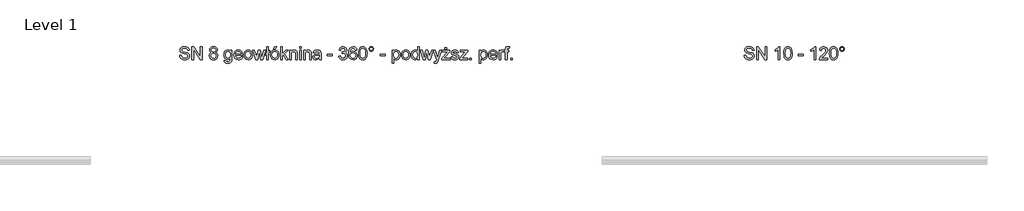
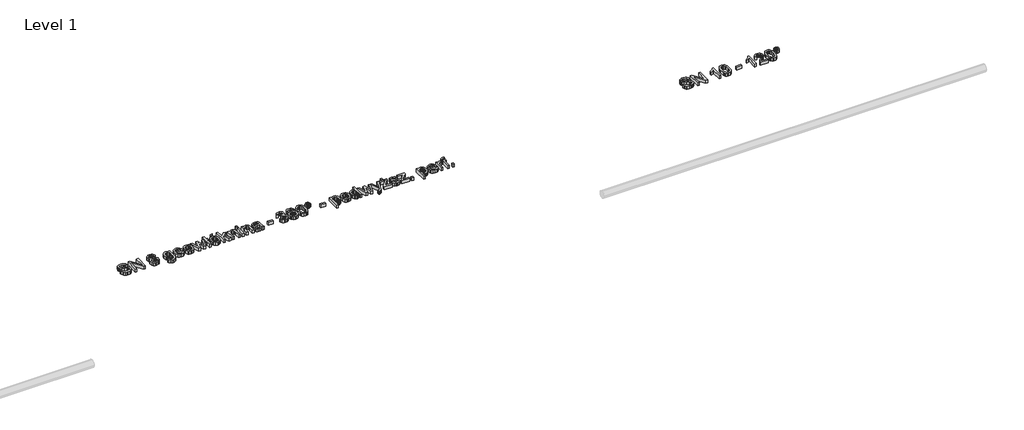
# One storey, part 7 of 9: 2 proxies.
"""IFC4 building model written with IfcOpenShell, lengths in millimetres."""

from ifc_helpers import new_model, si_unit, origin, origin_with_axes, place, context, project, spatial, polyline, outline, extrude, element, save

model = new_model("IFC4")

# Units and contexts
model_context = context("Model", 3, world=origin())
ifc_project = project(units=[si_unit("LENGTHUNIT", "METRE", prefix="MILLI")], contexts=[model_context])

# Site, building, storey
site = spatial("IfcSite", under=ifc_project)
building = spatial("IfcBuilding", under=site)
storey = spatial("IfcBuildingStorey", under=building, Name="Level 1", Elevation=0.0)

# Proxies
placement = place(None, origin())
element("IfcBuildingElementProxy", 1, Name="200mm Arial", ObjectType="200mm Arial", at=placement, inside=storey, context=model_context, shape_type="SweptSolid", body=[
    extrude(outline(polyline([(25360.1777004, 2231.0128426), (25385.291778, 2231.0128426), (25393.3851819, 2205.8742396), (25401.515374, 2196.983758), (25413.1527077, 2189.9817374), (25427.3774782, 2185.4383947), (25443.2699804, 2183.9239472), (25469.5122294, 2188.5102094), (25486.4593266, 2201.1162991), (25492.0266075, 2217.9652945), (25487.8572782, 2233.6370675), (25481.5051824, 2239.8358791), (25470.7875536, 2245.0414093), (25434.2200833, 2254.6308667), (25394.8567098, 2267.0162272), (25382.3548534, 2275.4652503), (25373.4950287, 2285.7046325), (25368.215922, 2297.5136446), (25366.4562198, 2310.6715573), (25368.632855, 2325.3807057), (25375.1627604, 2339.0965728), (25385.8742578, 2350.7216438), (25400.595669, 2359.1584042), (25418.2662675, 2364.2903581), (25437.8253269, 2366.0010093), (25459.0153298, 2364.2106503), (25477.5565824, 2358.8395732), (25492.786897, 2349.9981425), (25504.044086, 2337.796723), (25511.168734, 2322.9956041), (25514.0014253, 2306.3550752), (25488.8873478, 2306.3550752), (25484.2765601, 2321.3401351), (25474.6625773, 2332.1558658), (25459.6407292, 2338.7041653), (25438.8063455, 2340.8869318), (25417.4814525, 2338.7286908), (25402.8520119, 2332.2539676), (25394.390726, 2322.725824), (25391.5702974, 2311.4073212), (25393.5691229, 2301.7565502), (25399.5655994, 2293.9942401), (25413.7413189, 2287.0535332), (25440.5721791, 2279.9656734), (25485.0123241, 2267.3595837), (25499.3290651, 2258.2483729), (25509.3170613, 2247.0034466), (25515.1847791, 2233.7474321), (25517.140685, 2218.6029566), (25514.8904735, 2203.121256), (25508.1398389, 2188.5592603), (25497.1646927, 2176.026747), (25482.2409464, 2166.6334934), (25464.2944364, 2160.7657756), (25444.2509991, 2158.8098696), (25419.645825, 2160.9190598), (25399.3939211, 2167.2466301), (25383.2622956, 2177.8171061), (25371.0179566, 2192.6550132), (25363.1575446, 2210.7302819), (25360.1777004, 2231.0128426)])), origin_with_axes(), (0.0, 0.0, 1.0), 50.0),
    extrude(outline(polyline([(25554.8118013, 2161.9491293), (25554.8118013, 2362.8617496), (25581.6917125, 2362.8617496), (25686.6607084, 2203.6914731), (25686.6607084, 2362.8617496), (25711.774786, 2362.8617496), (25711.774786, 2161.9491293), (25684.8948748, 2161.9491293), (25579.9258789, 2321.1684569), (25579.9258789, 2161.9491293), (25554.8118013, 2161.9491293)])), origin_with_axes(), (0.0, 0.0, 1.0), 50.0),
    extrude(outline(polyline([(25861.3801307, 2272.6080335), (25847.9340437, 2279.2299094), (25838.4978706, 2288.2062301), (25832.9244583, 2299.3530545), (25831.0666543, 2312.4864418), (25835.1133562, 2332.1190776), (25847.253462, 2348.3426736), (25866.1258084, 2359.2319806), (25890.3692319, 2362.8617496), (25914.7598082, 2359.1461415), (25933.8774092, 2347.999317), (25946.2382442, 2331.5182037), (25950.3585226, 2311.7997287), (25948.525244, 2299.0894058), (25943.0254081, 2288.1326537), (25933.7977014, 2279.2115153), (25920.7808101, 2272.6080335), (25936.2379853, 2264.6433883), (25947.489043, 2252.914084), (25954.3500422, 2237.9842064), (25956.6370419, 2220.4178411), (25952.0998307, 2196.4074096), (25938.4881969, 2176.5663073), (25917.4698722, 2163.2489791), (25890.7125884, 2158.8098696), (25863.9553046, 2163.2673732), (25842.93698, 2176.6398837), (25829.3253461, 2196.6710583), (25824.7881349, 2221.1045542), (25827.1671051, 2239.3515011), (25834.3040158, 2254.3610865), (25845.830985, 2265.6182756), (25861.3801307, 2272.6080335)]), holes=[polyline([(25856.1807318, 2311.7506778), (25858.4064179, 2300.7877943), (25865.0834761, 2292.0322028), (25876.0157027, 2286.2932437), (25891.006894, 2284.3802573), (25905.6485974, 2286.280981), (25916.4152771, 2291.9831519), (25923.0371531, 2300.4444378), (25925.244445, 2310.6225063), (25922.9635767, 2321.186851), (25916.1209715, 2329.9240483), (25905.207139, 2335.7917662), (25890.7125884, 2337.7476721), (25876.1260673, 2335.8346857), (25865.2306289, 2330.0957266), (25858.4432061, 2321.6834916), (25856.1807318, 2311.7506778)]), polyline([(25849.9022124, 2221.987471), (25854.0960672, 2203.0783364), (25859.9024713, 2194.9665384), (25868.9339743, 2188.9271423), (25890.9087921, 2183.9239472), (25908.0030422, 2186.5543035), (25920.8298611, 2194.4453722), (25928.8496886, 2206.3954057), (25931.5229644, 2221.202656), (25928.7638494, 2236.2612924), (25920.4865046, 2248.4749746), (25907.3653801, 2256.5683785), (25890.0749263, 2259.2661798), (25873.2197995, 2256.6051667), (25860.5217393, 2248.6221274), (25852.5570941, 2236.6414371), (25849.9022124, 2221.987471)])]), origin_with_axes(), (0.0, 0.0, 1.0), 50.0),
    extrude(outline(polyline([(26057.0933521, 2149.3920906), (26082.2074296, 2146.2528309), (26084.9788073, 2138.4046817), (26090.3498845, 2133.0090791), (26100.9080977, 2128.8152243), (26114.728198, 2127.4172727), (26129.4680033, 2128.9991653), (26140.4308867, 2133.744843), (26148.0337813, 2141.3477376), (26152.6936199, 2151.5012807), (26154.4104026, 2180.7846875), (26136.7275413, 2166.6580189), (26115.1696564, 2161.9491293), (26089.2768953, 2167.4305711), (26069.9692219, 2183.8748963), (26057.9578748, 2207.9834297), (26053.9540924, 2236.4574961), (26055.7505828, 2256.7339254), (26061.140054, 2275.3794112), (26069.9324337, 2291.1799429), (26081.9376495, 2302.9215099), (26096.7448998, 2310.2055734), (26113.9433831, 2312.6335946), (26136.3473966, 2307.1398901), (26154.4104026, 2290.6587767), (26154.4104026, 2309.4943349), (26179.5244801, 2309.4943349), (26179.5244801, 2182.1090627), (26177.8076974, 2152.6968972), (26172.6573495, 2133.3279101), (26163.7852621, 2120.4826971), (26150.9032609, 2110.6418537), (26134.2933888, 2104.3878598), (26114.2376887, 2102.3031952), (26090.8710506, 2105.2401198), (26072.4708195, 2114.0508936), (26060.6679388, 2128.760042), (26057.0933521, 2149.3920906)]), holes=[polyline([(26079.0681699, 2238.1742787), (26081.7475771, 2215.1387345), (26089.7857987, 2199.3014146), (26101.8707223, 2190.1227588), (26116.6902353, 2187.0632069), (26131.3993838, 2190.1043647), (26143.545621, 2199.2278382), (26151.6942072, 2214.862823), (26154.4104026, 2237.4385148), (26151.6144994, 2259.2109975), (26143.2267899, 2274.8889019), (26130.9027431, 2284.3618632), (26116.2978279, 2287.519517), (26101.9565614, 2284.4109142), (26089.9329515, 2275.0851056), (26081.7843653, 2259.6401932), (26079.0681699, 2238.1742787)])]), origin_with_axes(), (0.0, 0.0, 1.0), 50.0),
    extrude(outline(polyline([(26320.4968606, 2205.898765), (26345.1204289, 2202.7595053), (26336.2483414, 2184.20599), (26322.091016, 2170.3368388), (26302.9672836, 2161.6916119), (26279.1959753, 2158.8098696), (26249.7286275, 2163.782408), (26227.0548339, 2178.7000229), (26212.5970715, 2202.5939584), (26207.7778173, 2234.4954588), (26212.6461224, 2267.4699483), (26227.2510376, 2292.1303047), (26249.6182629, 2307.5077721), (26277.7734983, 2312.6335946), (26305.0519482, 2307.5200348), (26326.8489564, 2292.1793556), (26341.1411719, 2267.5680502), (26345.9052438, 2234.6426116), (26345.758091, 2227.8735829), (26232.8918949, 2227.8735829), (26237.2390338, 2209.0748129), (26247.3373945, 2195.2547126), (26261.9116529, 2186.7566385), (26279.6864846, 2183.9239472), (26304.3100529, 2189.172397), (26313.4580518, 2195.9782139), (26320.4968606, 2205.898765)]), holes=[polyline([(26232.8918949, 2252.9876604), (26320.7911662, 2252.9876604), (26317.3943891, 2266.2559377), (26310.735725, 2275.7472932), (26296.0940216, 2284.5764611), (26277.6753964, 2287.519517), (26260.7466933, 2285.1712036), (26246.7487833, 2278.1262634), (26237.0183046, 2267.1449859), (26232.8918949, 2252.9876604)])]), origin_with_axes(), (0.0, 0.0, 1.0), 50.0),
    extrude(outline(polyline([(26364.7408019, 2235.7217321), (26370.1731927, 2271.295921), (26376.9636812, 2285.119087), (26386.4703651, 2296.299634), (26406.605773, 2308.5501044), (26430.7143064, 2312.6335946), (26457.0975768, 2307.6610563), (26478.1710838, 2292.7434414), (26491.9850527, 2269.0579722), (26496.589709, 2237.7818713), (26494.5540953, 2212.4102763), (26488.4472542, 2193.0964716), (26478.4469953, 2178.6325778), (26464.7311282, 2167.8107158), (26448.4400872, 2161.0600812), (26430.7143064, 2158.8098696), (26404.0122049, 2163.7640139), (26382.9632234, 2178.6264465), (26369.2964073, 2202.8085563), (26364.7408019, 2235.7217321)]), holes=[polyline([(26389.8548795, 2235.770783), (26392.7611472, 2213.0418071), (26401.4799505, 2196.848868), (26414.601075, 2187.1551774), (26430.7143064, 2183.9239472), (26446.7539614, 2187.1735715), (26459.8505604, 2196.9224443), (26468.5693637, 2213.3299813), (26471.4756315, 2236.555598), (26468.5509696, 2258.6223863), (26459.776984, 2274.5945963), (26446.6619909, 2284.2882868), (26430.7143064, 2287.519517), (26414.601075, 2284.3005496), (26401.4799505, 2274.6436472), (26392.7611472, 2258.4874962), (26389.8548795, 2235.770783)])]), origin_with_axes(), (0.0, 0.0, 1.0), 50.0),
    extrude(outline(polyline([(26549.3194616, 2161.9491293), (26504.4378582, 2309.4943349), (26530.5329544, 2309.4943349), (26555.9903885, 2223.409948), (26563.5932831, 2192.6550132), (26569.8227515, 2222.2817766), (26590.0807867, 2309.4943349), (26620.0018556, 2309.4943349), (26640.161789, 2222.5270312), (26645.7045444, 2195.696171), (26653.6507955, 2223.9985592), (26679.1572805, 2309.4943349), (26705.3504785, 2309.4943349), (26660.1255186, 2161.9491293), (26629.7629913, 2161.9491293), (26610.4859747, 2248.4749746), (26604.8941684, 2275.4529876), (26580.0253455, 2161.9491293), (26549.3194616, 2161.9491293)])), origin_with_axes(), (0.0, 0.0, 1.0), 50.0),
    extrude(outline(polyline([(26722.6164068, 2241.3625894), (26703.7808487, 2226.303953), (26703.7808487, 2254.5572903), (26722.6164068, 2269.6159266), (26722.6164068, 2362.8617496), (26747.7304844, 2362.8617496), (26747.7304844, 2289.726809), (26766.5660425, 2304.7854453), (26766.5660425, 2276.5321081), (26747.7304844, 2261.4734718), (26747.7304844, 2161.9491293), (26722.6164068, 2161.9491293), (26722.6164068, 2241.3625894)])), origin_with_axes(), (0.0, 0.0, 1.0), 50.0),
    extrude(outline(polyline([(26826.2119767, 2325.1906333), (26845.0475348, 2362.8617496), (26876.4401318, 2362.8617496), (26845.0475348, 2325.1906333), (26826.2119767, 2325.1906333)])), origin_with_axes(), (0.0, 0.0, 1.0), 50.0),
    extrude(outline(polyline([(26779.1230813, 2235.7217321), (26784.5554721, 2271.295921), (26791.3459606, 2285.119087), (26800.8526445, 2296.299634), (26820.9880523, 2308.5501044), (26845.0965858, 2312.6335946), (26871.4798562, 2307.6610563), (26892.5533631, 2292.7434414), (26906.3673321, 2269.0579722), (26910.9719884, 2237.7818713), (26908.9363747, 2212.4102763), (26902.8295335, 2193.0964716), (26892.8292746, 2178.6325778), (26879.1134076, 2167.8107158), (26862.8223666, 2161.0600812), (26845.0965858, 2158.8098696), (26818.3944843, 2163.7640139), (26797.3455028, 2178.6264465), (26783.6786867, 2202.8085563), (26779.1230813, 2235.7217321)]), holes=[polyline([(26804.2371588, 2235.770783), (26807.1434266, 2213.0418071), (26815.8622299, 2196.848868), (26828.9833544, 2187.1551774), (26845.0965858, 2183.9239472), (26861.1362408, 2187.1735715), (26874.2328398, 2196.9224443), (26882.9516431, 2213.3299813), (26885.8579108, 2236.555598), (26882.933249, 2258.6223863), (26874.1592634, 2274.5945963), (26861.0442703, 2284.2882868), (26845.0965858, 2287.519517), (26828.9833544, 2284.3005496), (26815.8622299, 2274.6436472), (26807.1434266, 2258.4874962), (26804.2371588, 2235.770783)])]), origin_with_axes(), (0.0, 0.0, 1.0), 50.0),
    extrude(outline(polyline([(26939.2253256, 2161.9491293), (26939.2253256, 2362.8617496), (26964.3394031, 2362.8617496), (26964.3394031, 2254.9006468), (27020.6498739, 2309.4943349), (27055.3779342, 2309.4943349), (26998.3807504, 2254.2139337), (27058.5171939, 2161.9491293), (27029.1847362, 2161.9491293), (26980.3790581, 2236.7518017), (26964.3394031, 2221.202656), (26964.3394031, 2161.9491293), (26939.2253256, 2161.9491293)])), origin_with_axes(), (0.0, 0.0, 1.0), 50.0),
    extrude(outline(polyline([(27080.4920117, 2161.9491293), (27080.4920117, 2309.4943349), (27105.6060893, 2309.4943349), (27105.6060893, 2288.8929431), (27114.3310239, 2299.2794781), (27124.8095294, 2306.6984317), (27137.0416058, 2311.1498039), (27151.027253, 2312.6335946), (27174.7433789, 2307.8511286), (27190.9301867, 2295.2940899), (27198.4595049, 2276.8264137), (27199.78388, 2252.546202), (27199.78388, 2161.9491293), (27174.6698025, 2161.9491293), (27174.6698025, 2249.1616877), (27171.7757975, 2271.3817602), (27161.548678, 2283.1294586), (27144.3072752, 2287.519517), (27129.5981267, 2285.0547077), (27117.0594821, 2277.6602796), (27108.4694375, 2263.3741954), (27105.6060893, 2240.2344179), (27105.6060893, 2161.9491293), (27080.4920117, 2161.9491293)])), origin_with_axes(), (0.0, 0.0, 1.0), 50.0),
    extrude(outline(polyline([(27234.3157367, 2337.7476721), (27234.3157367, 2362.8617496), (27259.4298142, 2362.8617496), (27259.4298142, 2337.7476721), (27234.3157367, 2337.7476721)])), origin_with_axes(), (0.0, 0.0, 1.0), 50.0),
    extrude(outline(polyline([(27234.3157367, 2161.9491293), (27234.3157367, 2309.4943349), (27259.4298142, 2309.4943349), (27259.4298142, 2161.9491293), (27234.3157367, 2161.9491293)])), origin_with_axes(), (0.0, 0.0, 1.0), 50.0),
    extrude(outline(polyline([(27297.1009305, 2161.9491293), (27297.1009305, 2309.4943349), (27322.215008, 2309.4943349), (27322.215008, 2288.8929431), (27330.9399427, 2299.2794781), (27341.4184482, 2306.6984317), (27353.6505245, 2311.1498039), (27367.6361717, 2312.6335946), (27391.3522977, 2307.8511286), (27407.5391055, 2295.2940899), (27415.0684236, 2276.8264137), (27416.3927988, 2252.546202), (27416.3927988, 2161.9491293), (27391.2787213, 2161.9491293), (27391.2787213, 2249.1616877), (27388.3847162, 2271.3817602), (27378.1575968, 2283.1294586), (27360.9161939, 2287.519517), (27346.2070455, 2285.0547077), (27333.6684008, 2277.6602796), (27325.0783562, 2263.3741954), (27322.215008, 2240.2344179), (27322.215008, 2161.9491293), (27297.1009305, 2161.9491293)])), origin_with_axes(), (0.0, 0.0, 1.0), 50.0),
    extrude(outline(polyline([(27545.1024462, 2180.7846875), (27520.7486581, 2163.7640139), (27493.8442215, 2158.8098696), (27472.8565537, 2161.7897138), (27457.3748531, 2170.7292463), (27447.8283153, 2184.3040919), (27444.646136, 2201.1898755), (27449.4531274, 2221.0555032), (27462.0837426, 2235.4764774), (27479.668502, 2243.7170341), (27501.3980652, 2247.493956), (27544.9552934, 2256.1269201), (27545.1024462, 2261.7187264), (27543.3734008, 2272.9268646), (27538.1862647, 2280.259979), (27526.5857191, 2285.7046325), (27510.4234368, 2287.519517), (27495.4629023, 2286.3116378), (27485.0150536, 2282.6880002), (27477.8904057, 2275.9864165), (27472.8994733, 2265.5446992), (27447.7853957, 2268.6839589), (27458.6501773, 2293.2094252), (27467.9085409, 2301.4622446), (27480.5268933, 2307.5813485), (27513.6607983, 2312.6335946), (27544.0969021, 2308.1699597), (27561.289254, 2296.9618216), (27568.9902504, 2279.9166225), (27570.2165237, 2257.9418046), (27570.2165237, 2226.6963605), (27571.491848, 2183.0655559), (27576.4950431, 2161.9491293), (27551.3809656, 2161.9491293), (27545.1024462, 2180.7846875)]), holes=[polyline([(27545.1024462, 2231.0128426), (27504.5863758, 2223.3118461), (27482.9794399, 2219.2406187), (27473.1937789, 2212.6187428), (27469.7602136, 2202.9557091), (27471.6302804, 2195.4877046), (27477.2404808, 2189.3686007), (27486.4681875, 2185.2851106), (27499.1907732, 2183.9239472), (27512.6797797, 2185.426132), (27524.5991563, 2189.9326864), (27540.9821678, 2204.476288), (27544.9552934, 2223.9004573), (27545.1024462, 2231.0128426)])]), origin_with_axes(), (0.0, 0.0, 1.0), 50.0),
    extrude(outline(polyline([(27670.6728339, 2221.5950635), (27670.6728339, 2246.709141), (27749.1543262, 2246.709141), (27749.1543262, 2221.5950635), (27670.6728339, 2221.5950635)])), origin_with_axes(), (0.0, 0.0, 1.0), 50.0),
    extrude(outline(polyline([(27849.6106363, 2215.3165441), (27874.7247139, 2218.4558038), (27880.347177, 2202.6736662), (27888.5816023, 2192.0173511), (27899.83266, 2185.9472982), (27914.5050203, 2183.9239472), (27931.7218977, 2186.7075876), (27945.0147004, 2195.0585089), (27953.5127745, 2207.5174458), (27956.3454659, 2222.6251331), (27953.5373, 2236.9663995), (27945.1128023, 2248.5976019), (27932.3595598, 2256.3047297), (27916.5651594, 2258.8737723), (27898.9558746, 2256.1269201), (27901.7517778, 2281.2409976), (27905.7739543, 2280.946692), (27920.8203279, 2282.7493138), (27934.2725462, 2288.1571792), (27943.7639016, 2297.3051781), (27946.9276868, 2310.3282007), (27944.6345557, 2321.1745882), (27937.7551624, 2329.9730993), (27927.2582628, 2335.8040289), (27914.1126128, 2337.7476721), (27900.9424374, 2335.7856348), (27890.1757577, 2329.8995229), (27882.3153457, 2320.0893363), (27877.8639736, 2306.3550752), (27852.749896, 2309.4943349), (27860.1443241, 2332.0455012), (27873.3022368, 2348.8822338), (27891.3039291, 2359.3668707), (27913.229696, 2362.8617496), (27929.017965, 2361.1388356), (27943.518647, 2355.9700936), (27955.7445919, 2347.815376), (27964.7086499, 2337.1345354), (27970.2084857, 2324.8288827), (27972.0417643, 2311.7997287), (27970.3004562, 2299.6596229), (27965.0765319, 2288.6476885), (27956.4435677, 2279.2666976), (27944.4751402, 2272.0194223), (27960.1959641, 2265.6673265), (27971.8455606, 2254.8515959), (27979.0560477, 2240.1608415), (27981.4595434, 2222.1836747), (27976.652552, 2197.7072593), (27962.2315778, 2177.2530203), (27940.4652264, 2163.4206573), (27913.6221035, 2158.8098696), (27889.3418918, 2162.746207), (27869.5743659, 2174.555219), (27855.827842, 2192.618225), (27849.6106363, 2215.3165441)])), origin_with_axes(), (0.0, 0.0, 1.0), 50.0),
    extrude(outline(polyline([(28132.1440086, 2309.4943349), (28107.0299311, 2306.3550752), (28097.5140501, 2327.2998234), (28086.121971, 2335.1357099), (28072.3509217, 2337.7476721), (28049.6893908, 2331.6653564), (28040.2532176, 2322.057505), (28032.5460898, 2308.8321473), (28027.3405596, 2290.1253478), (28025.4091791, 2264.0731712), (28035.4830144, 2275.8270009), (28047.5556752, 2284.1104772), (28060.9527112, 2289.0217018), (28074.999672, 2290.6587767), (28098.2007632, 2286.1828791), (28117.6739835, 2272.7551863), (28130.8809471, 2252.2396337), (28135.2832683, 2226.5001568), (28133.2108664, 2208.5168586), (28126.9936607, 2191.8456728), (28117.146686, 2177.7067415), (28104.184977, 2167.3202065), (28088.697145, 2160.9374539), (28071.2718012, 2158.8098696), (28042.7793406, 2164.4507269), (28020.0871529, 2181.3732987), (28011.4281304, 2194.4821604), (28005.2431144, 2211.2453167), (28000.2951016, 2255.7345126), (28005.788806, 2305.7542013), (28012.6559366, 2324.8319484), (28022.2699194, 2339.9549641), (28032.6901769, 2349.9766828), (28044.7720348, 2357.1350532), (28073.9205515, 2362.8617496), (28095.956683, 2359.3178198), (28113.6027561, 2348.6860301), (28125.9635911, 2331.8002465), (28132.1440086, 2309.4943349)]), holes=[polyline([(28025.4091791, 2226.8925642), (28031.2217146, 2205.1384756), (28046.6727584, 2189.3440752), (28069.3097638, 2183.9239472), (28085.8828477, 2186.7321131), (28098.9120017, 2195.1566108), (28107.3548935, 2208.4003626), (28110.1691908, 2225.6662909), (28107.3916817, 2242.2393748), (28099.0591545, 2254.8761213), (28085.8092713, 2262.8775547), (28068.2796943, 2265.5446992), (28051.7311358, 2262.8775547), (28037.8926415, 2254.8761213), (28028.5300447, 2242.5459431), (28025.4091791, 2226.8925642)])]), origin_with_axes(), (0.0, 0.0, 1.0), 50.0),
    extrude(outline(polyline([(28157.2580862, 2260.7867587), (28159.1036275, 2292.9457765), (28164.6402515, 2318.5932829), (28173.8127759, 2338.1216855), (28186.5660184, 2351.9233917), (28202.9919495, 2360.1271601), (28223.1825397, 2362.8617496), (28238.658109, 2361.2430689), (28252.5149974, 2356.3870265), (28264.1032803, 2348.483695), (28272.7730326, 2337.7231466), (28284.5452565, 2307.9982814), (28289.1069932, 2260.7867587), (28287.279846, 2228.811682), (28281.7984043, 2203.2254892), (28272.6810621, 2183.6786925), (28259.9462137, 2169.821804), (28243.4834945, 2161.5628532), (28223.1825397, 2158.8098696), (28197.0874435, 2163.5923356), (28177.2708667, 2177.9397334), (28168.5152752, 2193.0688805), (28162.2612813, 2211.919767), (28157.2580862, 2260.7867587)]), holes=[polyline([(28182.3721637, 2260.8358096), (28185.3152197, 2221.3314147), (28194.1443875, 2198.4675487), (28207.2900375, 2187.5598476), (28223.1825397, 2183.9239472), (28239.0750419, 2187.5721103), (28252.2206918, 2198.5165997), (28261.0498597, 2221.3927284), (28263.9929157, 2260.8358096), (28261.1479616, 2299.4511564), (28252.6130993, 2322.492832), (28239.4919748, 2333.9339621), (28222.8882341, 2337.7476721), (28207.1674102, 2334.3876832), (28194.536795, 2324.3077165), (28185.4133215, 2299.8313011), (28182.3721637, 2260.8358096)])]), origin_with_axes(), (0.0, 0.0, 1.0), 50.0),
    extrude(outline(polyline([(28317.3603305, 2328.378944), (28320.1255768, 2342.8612318), (28328.4213158, 2355.0136004), (28340.5920785, 2363.2541571), (28354.9823958, 2366.0010093), (28369.5382601, 2363.2541571), (28381.7151542, 2355.0136004), (28389.9557108, 2342.8612318), (28392.7025631, 2328.378944), (28389.9373167, 2313.9150502), (28381.6415778, 2301.719762), (28369.4462896, 2293.4240231), (28354.9823958, 2290.6587767), (28340.5920785, 2293.405629), (28328.4213158, 2301.6461856), (28320.1255768, 2313.8230797), (28317.3603305, 2328.378944)]), holes=[polyline([(28333.0566289, 2328.329893), (28334.6691783, 2319.8808699), (28339.5068266, 2312.7807474), (28346.6253432, 2307.9614932), (28355.0804977, 2306.3550752), (28363.4620758, 2307.9614932), (28370.556067, 2312.7807474), (28375.3937152, 2319.8808699), (28377.0062646, 2328.329893), (28375.3937152, 2336.7789162), (28370.556067, 2343.8790387), (28363.4620758, 2348.6982928), (28355.0804977, 2350.3047109), (28346.6253432, 2348.6982928), (28339.5068266, 2343.8790387), (28334.6691783, 2336.7789162), (28333.0566289, 2328.329893)])]), origin_with_axes(), (0.0, 0.0, 1.0), 50.0),
    extrude(outline(polyline([(28496.2981329, 2221.5950635), (28496.2981329, 2246.709141), (28574.7796252, 2246.709141), (28574.7796252, 2221.5950635), (28496.2981329, 2221.5950635)])), origin_with_axes(), (0.0, 0.0, 1.0), 50.0),
    extrude(outline(polyline([(28681.5144548, 2105.4424549), (28681.5144548, 2309.4943349), (28706.6285323, 2309.4943349), (28706.6285323, 2284.8707667), (28723.9925625, 2305.6928876), (28734.6856658, 2310.8984178), (28747.4389083, 2312.6335946), (28764.4227937, 2310.2055734), (28779.2729636, 2302.9215099), (28791.3640185, 2291.2228624), (28800.0705591, 2275.5510895), (28805.3312716, 2257.0466251), (28807.0848424, 2236.8499036), (28805.104411, 2215.3717264), (28799.1631168, 2196.1621549), (28789.4510321, 2180.1960763), (28776.1582294, 2168.4483779), (28760.6765287, 2161.2194967), (28744.3977505, 2158.8098696), (28732.8523872, 2160.4224191), (28722.5455599, 2165.2600673), (28706.6285323, 2181.5695024), (28706.6285323, 2105.4424549), (28681.5144548, 2105.4424549)]), holes=[polyline([(28706.6285323, 2234.5445097), (28709.3447277, 2212.0301316), (28717.4933139, 2196.2847822), (28729.5169238, 2187.0141559), (28743.8581902, 2183.9239472), (28758.4324486, 2187.1245205), (28770.7626268, 2196.7262406), (28779.1687304, 2213.0479385), (28781.9707649, 2236.4084452), (28779.2361754, 2258.8001959), (28771.0324069, 2274.7662745), (28759.0271911, 2284.3312064), (28744.8882598, 2287.519517), (28730.6941461, 2284.1288713), (28718.2290779, 2273.9569341), (28709.5286687, 2257.3225366), (28706.6285323, 2234.5445097)])]), origin_with_axes(), (0.0, 0.0, 1.0), 50.0),
    extrude(outline(polyline([(28829.0596603, 2235.7217321), (28834.4920511, 2271.295921), (28841.2825396, 2285.119087), (28850.7892235, 2296.299634), (28870.9246313, 2308.5501044), (28895.0331648, 2312.6335946), (28921.4164352, 2307.6610563), (28942.4899421, 2292.7434414), (28956.3039111, 2269.0579722), (28960.9085674, 2237.7818713), (28958.8729537, 2212.4102763), (28952.7661125, 2193.0964716), (28942.7658536, 2178.6325778), (28929.0499866, 2167.8107158), (28912.7589456, 2161.0600812), (28895.0331648, 2158.8098696), (28868.3310633, 2163.7640139), (28847.2820818, 2178.6264465), (28833.6152657, 2202.8085563), (28829.0596603, 2235.7217321)]), holes=[polyline([(28854.1737378, 2235.770783), (28857.0800056, 2213.0418071), (28865.7988089, 2196.848868), (28878.9199334, 2187.1551774), (28895.0331648, 2183.9239472), (28911.0728197, 2187.1735715), (28924.1694188, 2196.9224443), (28932.8882221, 2213.3299813), (28935.7944898, 2236.555598), (28932.869828, 2258.6223863), (28924.0958424, 2274.5945963), (28910.9808492, 2284.2882868), (28895.0331648, 2287.519517), (28878.9199334, 2284.3005496), (28865.7988089, 2274.6436472), (28857.0800056, 2258.4874962), (28854.1737378, 2235.770783)])]), origin_with_axes(), (0.0, 0.0, 1.0), 50.0),
    extrude(outline(polyline([(29080.2004357, 2161.9491293), (29080.2004357, 2185.6407298), (29072.6864459, 2173.9022285), (29063.5844322, 2165.5175847), (29052.8943946, 2160.4867984), (29040.616333, 2158.8098696), (29024.3804743, 2161.2378908), (29009.5180417, 2168.5219543), (28996.9364774, 2180.1531567), (28987.5432238, 2195.6225946), (28981.6939001, 2214.3048686), (28979.7441255, 2235.5745793), (28981.5406159, 2256.5806412), (28986.9300871, 2275.5510895), (28995.9064078, 2291.4068034), (29008.4634466, 2303.0686627), (29023.6508416, 2310.2423616), (29040.5182311, 2312.6335946), (29052.8054898, 2310.9229433), (29063.6702713, 2305.7909895), (29080.2004357, 2288.0100264), (29080.2004357, 2362.8617496), (29105.3145132, 2362.8617496), (29105.3145132, 2161.9491293), (29080.2004357, 2161.9491293)]), holes=[polyline([(29004.858203, 2235.6726812), (29007.6908944, 2212.955968), (29016.1889685, 2196.799817), (29028.5375408, 2187.1429146), (29042.9217268, 2183.9239472), (29057.2997815, 2186.9957618), (29069.3356541, 2196.2112058), (29077.4842403, 2211.7419574), (29080.2004357, 2233.7596948), (29077.4351893, 2257.83144), (29069.1394503, 2274.5210199), (29056.7970094, 2284.2698927), (29041.8916572, 2287.519517), (29027.3603184, 2284.3986514), (29015.4532045, 2275.0360547), (29007.5069534, 2258.9534801), (29004.858203, 2235.6726812)])]), origin_with_axes(), (0.0, 0.0, 1.0), 50.0),
    extrude(outline(polyline([(29167.4620449, 2161.9491293), (29122.5804415, 2309.4943349), (29148.6755377, 2309.4943349), (29174.1329718, 2223.409948), (29181.7358663, 2192.6550132), (29187.9653348, 2222.2817766), (29208.22337, 2309.4943349), (29238.1444389, 2309.4943349), (29258.3043723, 2222.5270312), (29263.8471277, 2195.696171), (29271.7933787, 2223.9985592), (29297.2998637, 2309.4943349), (29323.4930618, 2309.4943349), (29278.2681019, 2161.9491293), (29247.9055745, 2161.9491293), (29228.628558, 2248.4749746), (29223.0367517, 2275.4529876), (29198.1679288, 2161.9491293), (29167.4620449, 2161.9491293)])), origin_with_axes(), (0.0, 0.0, 1.0), 50.0),
    extrude(outline(polyline([(29340.7589901, 2105.4424549), (29337.6197304, 2129.6245647), (29350.3729729, 2127.4172727), (29362.2923496, 2130.1886504), (29369.6009385, 2137.9141723), (29376.4680691, 2156.4063739), (29378.4301064, 2162.4886896), (29325.0626916, 2309.4943349), (29351.5501953, 2309.4943349), (29379.8525835, 2227.5792773), (29389.7118209, 2194.8132542), (29399.5710584, 2223.7533045), (29428.6582615, 2309.4943349), (29454.9495614, 2309.4943349), (29403.5932349, 2158.4174622), (29390.2513812, 2125.6514392), (29375.6832542, 2107.9440524), (29356.111932, 2102.3031952), (29340.7589901, 2105.4424549)])), origin_with_axes(), (0.0, 0.0, 1.0), 50.0),
    extrude(outline(polyline([(29460.0508584, 2161.9491293), (29460.0508584, 2185.5916789), (29546.7238565, 2284.3802573), (29521.0702187, 2284.3802573), (29466.3293778, 2284.3802573), (29466.3293778, 2309.4943349), (29582.4819864, 2309.4943349), (29582.4819864, 2288.1571792), (29505.6191749, 2200.5031624), (29493.846951, 2187.0632069), (29522.8851032, 2187.0632069), (29585.6212461, 2187.0632069), (29585.6212461, 2161.9491293), (29460.0508584, 2161.9491293)])), origin_with_axes(), (0.0, 0.0, 1.0), 50.0),
    extrude(outline(polyline([(29507.1397538, 2325.1906333), (29507.1397538, 2350.3047109), (29532.2538313, 2350.3047109), (29532.2538313, 2325.1906333), (29507.1397538, 2325.1906333)])), origin_with_axes(), (0.0, 0.0, 1.0), 50.0),
    extrude(outline(polyline([(29601.3175446, 2205.898765), (29626.4316221, 2209.0380247), (29630.3924849, 2198.2958705), (29638.0566931, 2190.3986703), (29649.4732977, 2185.542628), (29664.6913496, 2183.9239472), (29679.7254605, 2185.4077379), (29690.2959365, 2189.85911), (29696.5499304, 2196.3093077), (29698.634595, 2203.7895749), (29696.5376676, 2210.1907216), (29690.2468855, 2215.0712894), (29664.397044, 2222.2327256), (29626.5787749, 2234.5199843), (29617.0077117, 2240.6942704), (29610.073136, 2248.8673821), (29604.4568043, 2269.1254173), (29608.9694901, 2287.8383481), (29621.2812742, 2302.136695), (29637.2473528, 2309.5679113), (29658.8542886, 2312.6335946), (29689.4130197, 2307.7039758), (29700.841887, 2301.903703), (29708.837189, 2294.3621221), (29717.4701532, 2271.8232186), (29692.3560756, 2268.6839589), (29689.1861591, 2276.5872904), (29682.9137711, 2282.5408474), (29660.8163259, 2287.519517), (29646.3953517, 2286.3300319), (29636.7813689, 2282.7615766), (29631.3735036, 2277.6112286), (29629.5708818, 2271.6760658), (29632.5629887, 2264.3674768), (29641.9317168, 2258.8247214), (29663.5631781, 2253.4781697), (29700.4249541, 2241.656895), (29717.5437296, 2228.2659903), (29722.1974368, 2218.4190156), (29723.7486726, 2206.4383253), (29721.9276567, 2194.0529648), (29716.4646091, 2182.4033683), (29707.5679961, 2172.4031094), (29695.4462844, 2164.9657617), (29680.804581, 2160.3488427), (29664.3479931, 2158.8098696), (29639.0254491, 2161.7774511), (29620.5455102, 2170.6801954), (29608.2092006, 2185.4200006), (29601.3175446, 2205.898765)])), origin_with_axes(), (0.0, 0.0, 1.0), 50.0),
    extrude(outline(polyline([(29736.3057113, 2161.9491293), (29736.3057113, 2185.5916789), (29822.9787094, 2284.3802573), (29797.3250716, 2284.3802573), (29742.5842307, 2284.3802573), (29742.5842307, 2309.4943349), (29858.7368393, 2309.4943349), (29858.7368393, 2288.1571792), (29781.8740278, 2200.5031624), (29770.1018039, 2187.0632069), (29799.1399561, 2187.0632069), (29861.876099, 2187.0632069), (29861.876099, 2161.9491293), (29736.3057113, 2161.9491293)])), origin_with_axes(), (0.0, 0.0, 1.0), 50.0),
    extrude(outline(polyline([(29893.2686959, 2161.9491293), (29893.2686959, 2187.0632069), (29918.3827735, 2187.0632069), (29918.3827735, 2161.9491293), (29893.2686959, 2161.9491293)])), origin_with_axes(), (0.0, 0.0, 1.0), 50.0),
    extrude(outline(polyline([(30043.9531612, 2105.4424549), (30043.9531612, 2309.4943349), (30069.0672387, 2309.4943349), (30069.0672387, 2284.8707667), (30086.4312689, 2305.6928876), (30097.1243722, 2310.8984178), (30109.8776147, 2312.6335946), (30126.8615001, 2310.2055734), (30141.71167, 2302.9215099), (30153.8027249, 2291.2228624), (30162.5092655, 2275.5510895), (30167.769978, 2257.0466251), (30169.5235488, 2236.8499036), (30167.5431174, 2215.3717264), (30161.6018232, 2196.1621549), (30151.8897385, 2180.1960763), (30138.5969358, 2168.4483779), (30123.1152352, 2161.2194967), (30106.8364569, 2158.8098696), (30095.2910936, 2160.4224191), (30084.9842664, 2165.2600673), (30069.0672387, 2181.5695024), (30069.0672387, 2105.4424549), (30043.9531612, 2105.4424549)]), holes=[polyline([(30069.0672387, 2234.5445097), (30071.7834341, 2212.0301316), (30079.9320203, 2196.2847822), (30091.9556302, 2187.0141559), (30106.2968966, 2183.9239472), (30120.871155, 2187.1245205), (30133.2013332, 2196.7262406), (30141.6074368, 2213.0479385), (30144.4094713, 2236.4084452), (30141.6748818, 2258.8001959), (30133.4711133, 2274.7662745), (30121.4658975, 2284.3312064), (30107.3269662, 2287.519517), (30093.1328525, 2284.1288713), (30080.6677843, 2273.9569341), (30071.9673751, 2257.3225366), (30069.0672387, 2234.5445097)])]), origin_with_axes(), (0.0, 0.0, 1.0), 50.0),
    extrude(outline(polyline([(30301.0781503, 2205.898765), (30325.7017185, 2202.7595053), (30316.8296311, 2184.20599), (30302.6723056, 2170.3368388), (30283.5485733, 2161.6916119), (30259.777265, 2158.8098696), (30230.3099172, 2163.782408), (30207.6361235, 2178.7000229), (30193.1783611, 2202.5939584), (30188.359107, 2234.4954588), (30193.2274121, 2267.4699483), (30207.8323273, 2292.1303047), (30230.1995526, 2307.5077721), (30258.3547879, 2312.6335946), (30285.6332379, 2307.5200348), (30307.4302461, 2292.1793556), (30321.7224616, 2267.5680502), (30326.4865335, 2234.6426116), (30326.3393807, 2227.8735829), (30213.4731845, 2227.8735829), (30217.8203234, 2209.0748129), (30227.9186842, 2195.2547126), (30242.4929426, 2186.7566385), (30260.2677743, 2183.9239472), (30284.8913425, 2189.172397), (30294.0393415, 2195.9782139), (30301.0781503, 2205.898765)]), holes=[polyline([(30213.4731845, 2252.9876604), (30301.3724559, 2252.9876604), (30297.9756788, 2266.2559377), (30291.3170147, 2275.7472932), (30276.6753113, 2284.5764611), (30258.2566861, 2287.519517), (30241.3279829, 2285.1712036), (30227.330073, 2278.1262634), (30217.5995942, 2267.1449859), (30213.4731845, 2252.9876604)])]), origin_with_axes(), (0.0, 0.0, 1.0), 50.0),
    extrude(outline(polyline([(30351.600611, 2161.9491293), (30351.600611, 2309.4943349), (30373.5754288, 2309.4943349), (30373.5754288, 2287.6666698), (30389.1736254, 2307.7775522), (30404.8699239, 2312.6335946), (30417.3779117, 2310.6960827), (30430.0821033, 2304.8835472), (30421.6943938, 2282.3691691), (30404.036058, 2287.519517), (30389.835813, 2282.5653728), (30380.7859159, 2268.8311117), (30376.7146885, 2239.4986539), (30376.7146885, 2161.9491293), (30351.600611, 2161.9491293)])), origin_with_axes(), (0.0, 0.0, 1.0), 50.0),
    extrude(outline(polyline([(30452.0569211, 2161.9491293), (30452.0569211, 2284.3802573), (30430.0821033, 2284.3802573), (30430.0821033, 2309.4943349), (30452.0569211, 2309.4943349), (30452.0569211, 2324.3567675), (30454.7056715, 2345.3015157), (30459.7579176, 2353.652437), (30467.5570159, 2360.2620502), (30478.4708484, 2364.5662696), (30492.8672971, 2366.0010093), (30515.7740827, 2363.2541571), (30512.0952628, 2339.7097094), (30497.6252376, 2340.8869318), (30481.8063118, 2336.7176025), (30478.329827, 2330.7456515), (30477.1709987, 2321.1684569), (30477.1709987, 2309.4943349), (30505.4243359, 2309.4943349), (30505.4243359, 2284.3802573), (30477.1709987, 2284.3802573), (30477.1709987, 2161.9491293), (30452.0569211, 2161.9491293)])), origin_with_axes(), (0.0, 0.0, 1.0), 50.0),
    extrude(outline(polyline([(30533.6776731, 2161.9491293), (30533.6776731, 2187.0632069), (30558.7917507, 2187.0632069), (30558.7917507, 2161.9491293), (30533.6776731, 2161.9491293)])), origin_with_axes(), (0.0, 0.0, 1.0), 50.0),
])
element("IfcBuildingElementProxy", 2, Name="200mm Arial", ObjectType="200mm Arial", at=placement, inside=storey, context=model_context, shape_type="SweptSolid", body=[
    extrude(outline(polyline([(34180.9483219, 2231.0128426), (34206.0623994, 2231.0128426), (34214.1558033, 2205.8742396), (34222.2859954, 2196.983758), (34233.9233292, 2189.9817374), (34248.1480997, 2185.4383947), (34264.0406019, 2183.9239472), (34290.2828509, 2188.5102094), (34307.2299481, 2201.1162991), (34312.797229, 2217.9652945), (34308.6278997, 2233.6370675), (34302.2758039, 2239.8358791), (34291.5581751, 2245.0414093), (34254.9907048, 2254.6308667), (34215.6273313, 2267.0162272), (34203.1254748, 2275.4652503), (34194.2656501, 2285.7046325), (34188.9865435, 2297.5136446), (34187.2268413, 2310.6715573), (34189.4034764, 2325.3807057), (34195.9333818, 2339.0965728), (34206.6448793, 2350.7216438), (34221.3662904, 2359.1584042), (34239.0368889, 2364.2903581), (34258.5959483, 2366.0010093), (34279.7859513, 2364.2106503), (34298.3272038, 2358.8395732), (34313.5575184, 2349.9981425), (34324.8147075, 2337.796723), (34331.9393554, 2322.9956041), (34334.7720468, 2306.3550752), (34309.6579693, 2306.3550752), (34305.0471816, 2321.3401351), (34295.4331988, 2332.1558658), (34280.4113507, 2338.7041653), (34259.576967, 2340.8869318), (34238.252074, 2338.7286908), (34223.6226333, 2332.2539676), (34215.1613474, 2322.725824), (34212.3409188, 2311.4073212), (34214.3397443, 2301.7565502), (34220.3362208, 2293.9942401), (34234.5119404, 2287.0535332), (34261.3428006, 2279.9656734), (34305.7829456, 2267.3595837), (34320.0996866, 2258.2483729), (34330.0876827, 2247.0034466), (34335.9554006, 2233.7474321), (34337.9113065, 2218.6029566), (34335.661095, 2203.121256), (34328.9104604, 2188.5592603), (34317.9353142, 2176.026747), (34303.0115679, 2166.6334934), (34285.0650579, 2160.7657756), (34265.0216205, 2158.8098696), (34240.4164464, 2160.9190598), (34220.1645426, 2167.2466301), (34204.0329171, 2177.8171061), (34191.788578, 2192.6550132), (34183.9281661, 2210.7302819), (34180.9483219, 2231.0128426)])), origin_with_axes(), (0.0, 0.0, 1.0), 50.0),
    extrude(outline(polyline([(34375.5824228, 2161.9491293), (34375.5824228, 2362.8617496), (34402.4623339, 2362.8617496), (34507.4313299, 2203.6914731), (34507.4313299, 2362.8617496), (34532.5454074, 2362.8617496), (34532.5454074, 2161.9491293), (34505.6654963, 2161.9491293), (34400.6965003, 2321.1684569), (34400.6965003, 2161.9491293), (34375.5824228, 2161.9491293)])), origin_with_axes(), (0.0, 0.0, 1.0), 50.0),
    extrude(outline(polyline([(34739.7365471, 2161.9491293), (34714.6224696, 2161.9491293), (34714.6224696, 2318.5197065), (34690.8327672, 2301.5726092), (34664.3943145, 2288.8929431), (34664.3943145, 2312.6335946), (34701.2070395, 2336.1289913), (34714.6776519, 2349.7038369), (34723.5497393, 2362.8617496), (34739.7365471, 2362.8617496), (34739.7365471, 2161.9491293)])), origin_with_axes(), (0.0, 0.0, 1.0), 50.0),
    extrude(outline(polyline([(34799.3824813, 2260.7867587), (34801.2280226, 2292.9457765), (34806.7646466, 2318.5932829), (34815.937171, 2338.1216855), (34828.6904135, 2351.9233917), (34845.1163446, 2360.1271601), (34865.3069348, 2362.8617496), (34880.7825041, 2361.2430689), (34894.6393925, 2356.3870265), (34906.2276754, 2348.483695), (34914.8974277, 2337.7231466), (34926.6696516, 2307.9982814), (34931.2313883, 2260.7867587), (34929.4042411, 2228.811682), (34923.9227994, 2203.2254892), (34914.8054572, 2183.6786925), (34902.0706088, 2169.821804), (34885.6078896, 2161.5628532), (34865.3069348, 2158.8098696), (34839.2118386, 2163.5923356), (34819.3952618, 2177.9397334), (34810.6396703, 2193.0688805), (34804.3856764, 2211.919767), (34799.3824813, 2260.7867587)]), holes=[polyline([(34824.4965588, 2260.8358096), (34827.4396148, 2221.3314147), (34836.2687826, 2198.4675487), (34849.4144326, 2187.5598476), (34865.3069348, 2183.9239472), (34881.199437, 2187.5721103), (34894.3450869, 2198.5165997), (34903.1742548, 2221.3927284), (34906.1173108, 2260.8358096), (34903.2723567, 2299.4511564), (34894.7374944, 2322.492832), (34881.6163699, 2333.9339621), (34865.0126292, 2337.7476721), (34849.2918053, 2334.3876832), (34836.6611901, 2324.3077165), (34827.5377166, 2299.8313011), (34824.4965588, 2260.8358096)])]), origin_with_axes(), (0.0, 0.0, 1.0), 50.0),
    extrude(outline(polyline([(35025.4091791, 2221.5950635), (35025.4091791, 2246.709141), (35103.8906714, 2246.709141), (35103.8906714, 2221.5950635), (35025.4091791, 2221.5950635)])), origin_with_axes(), (0.0, 0.0, 1.0), 50.0),
    extrude(outline(polyline([(35298.5247723, 2161.9491293), (35273.4106948, 2161.9491293), (35273.4106948, 2318.5197065), (35249.6209924, 2301.5726092), (35223.1825397, 2288.8929431), (35223.1825397, 2312.6335946), (35259.9952647, 2336.1289913), (35273.4658771, 2349.7038369), (35282.3379645, 2362.8617496), (35298.5247723, 2362.8617496), (35298.5247723, 2161.9491293)])), origin_with_axes(), (0.0, 0.0, 1.0), 50.0),
    extrude(outline(polyline([(35486.8803538, 2187.0632069), (35486.8803538, 2161.9491293), (35355.0314468, 2161.9491293), (35357.7292481, 2179.2641086), (35372.9840881, 2205.9232905), (35404.425736, 2235.0350191), (35447.7867605, 2276.8754646), (35455.9169526, 2291.2964388), (35458.6270166, 2305.3250056), (35456.0702367, 2317.9004385), (35448.3998971, 2328.3544185), (35436.6092792, 2335.3993587), (35421.6916643, 2337.7476721), (35406.0260227, 2335.454541), (35393.85526, 2328.5751477), (35386.0009794, 2317.6490524), (35383.284784, 2303.2158155), (35358.1707065, 2306.3550752), (35364.2591535, 2330.6475496), (35377.4231975, 2348.3917245), (35396.9761256, 2359.2442434), (35422.2312246, 2362.8617496), (35447.6702645, 2358.8395732), (35467.1864044, 2346.7730437), (35479.6024217, 2328.746826), (35483.7410941, 2306.8455845), (35479.2774593, 2283.0313567), (35464.4395521, 2258.4077885), (35428.460693, 2223.9985592), (35399.5696937, 2199.8409748), (35388.2389282, 2187.0632069), (35486.8803538, 2187.0632069)])), origin_with_axes(), (0.0, 0.0, 1.0), 50.0),
    extrude(outline(polyline([(35511.9944314, 2260.7867587), (35513.8399727, 2292.9457765), (35519.3765967, 2318.5932829), (35528.5491212, 2338.1216855), (35541.3023637, 2351.9233917), (35557.7282947, 2360.1271601), (35577.9188849, 2362.8617496), (35593.3944542, 2361.2430689), (35607.2513427, 2356.3870265), (35618.8396255, 2348.483695), (35627.5093779, 2337.7231466), (35639.2816017, 2307.9982814), (35643.8433384, 2260.7867587), (35642.0161912, 2228.811682), (35636.5347495, 2203.2254892), (35627.4174074, 2183.6786925), (35614.682559, 2169.821804), (35598.2198397, 2161.5628532), (35577.9188849, 2158.8098696), (35551.8237887, 2163.5923356), (35532.0072119, 2177.9397334), (35523.2516204, 2193.0688805), (35516.9976265, 2211.919767), (35511.9944314, 2260.7867587)]), holes=[polyline([(35537.1085089, 2260.8358096), (35540.0515649, 2221.3314147), (35548.8807328, 2198.4675487), (35562.0263827, 2187.5598476), (35577.9188849, 2183.9239472), (35593.8113871, 2187.5721103), (35606.9570371, 2198.5165997), (35615.7862049, 2221.3927284), (35618.7292609, 2260.8358096), (35615.8843068, 2299.4511564), (35607.3494445, 2322.492832), (35594.22832, 2333.9339621), (35577.6245793, 2337.7476721), (35561.9037554, 2334.3876832), (35549.2731402, 2324.3077165), (35540.1496667, 2299.8313011), (35537.1085089, 2260.8358096)])]), origin_with_axes(), (0.0, 0.0, 1.0), 50.0),
    extrude(outline(polyline([(35672.0966757, 2328.378944), (35674.861922, 2342.8612318), (35683.157661, 2355.0136004), (35695.3284237, 2363.2541571), (35709.7187411, 2366.0010093), (35724.2746053, 2363.2541571), (35736.4514994, 2355.0136004), (35744.6920561, 2342.8612318), (35747.4389083, 2328.378944), (35744.673662, 2313.9150502), (35736.377923, 2301.719762), (35724.1826348, 2293.4240231), (35709.7187411, 2290.6587767), (35695.3284237, 2293.405629), (35683.157661, 2301.6461856), (35674.861922, 2313.8230797), (35672.0966757, 2328.378944)]), holes=[polyline([(35687.7929741, 2328.329893), (35689.4055236, 2319.8808699), (35694.2431718, 2312.7807474), (35701.3616884, 2307.9614932), (35709.8168429, 2306.3550752), (35718.198421, 2307.9614932), (35725.2924122, 2312.7807474), (35730.1300604, 2319.8808699), (35731.7426098, 2328.329893), (35730.1300604, 2336.7789162), (35725.2924122, 2343.8790387), (35718.198421, 2348.6982928), (35709.8168429, 2350.3047109), (35701.3616884, 2348.6982928), (35694.2431718, 2343.8790387), (35689.4055236, 2336.7789162), (35687.7929741, 2328.329893)])]), origin_with_axes(), (0.0, 0.0, 1.0), 50.0),
])

save(model, "model.ifc")
